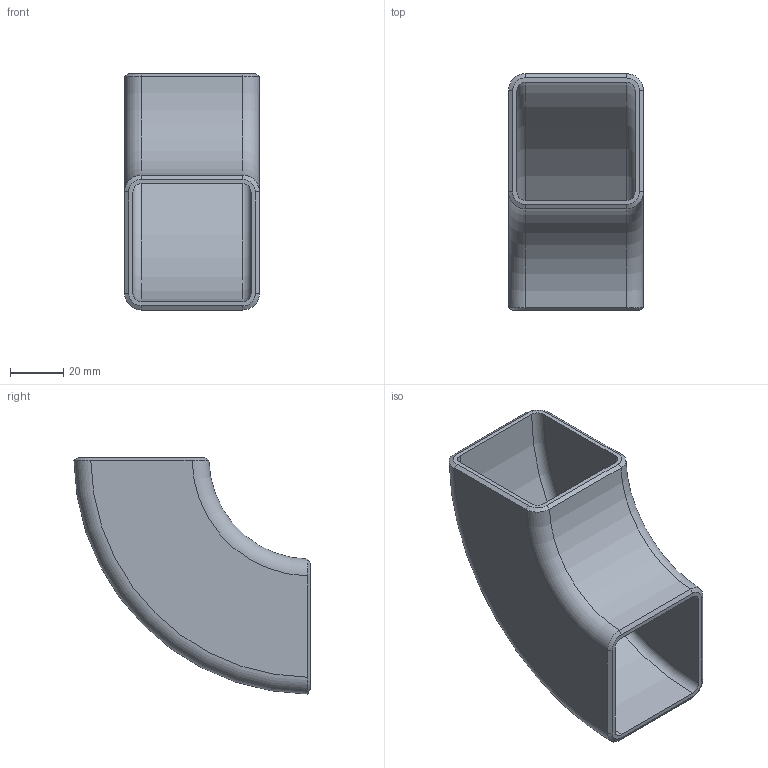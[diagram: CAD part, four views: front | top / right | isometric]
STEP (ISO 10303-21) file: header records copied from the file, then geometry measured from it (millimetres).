
FILE_DESCRIPTION((''),'2;1');
FILE_NAME('C:\Documents and Settings\bamfomg\Desktop\Owens corners\STP FILES\2x2x0.125 - Steel.stp','2011-03-21T13:14:12',('bamfomg'),(''),'Autodesk Inventor 2011','Autodesk Inventor 2011','');
FILE_SCHEMA(('AUTOMOTIVE_DESIGN { 1 0 10303 214 1 1 1 1 }'));
Length unit declared in the file: inch
Products named in the file (1): Square Tube Corners
Bounding box: 50.8 x 88.9 x 88.9 mm (x, y, z)
Volume: 57470.2 mm3; surface area: 37272.7 mm2
Topology: 1 solids, 1 shells, 34 faces, 80 edges, 48 vertices
Faces by surface type: bspline 16, torus 8, plane 6, cylinder 4
Entity records: 1562 total; most frequent: CARTESIAN_POINT 877, ORIENTED_EDGE 160, DIRECTION 94, EDGE_CURVE 80, VERTEX_POINT 48, B_SPLINE_CURVE_WITH_KNOTS 46, AXIS2_PLACEMENT_3D 43, EDGE_LOOP 36
